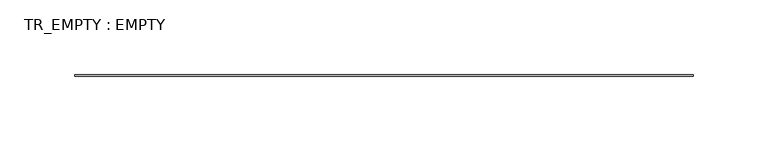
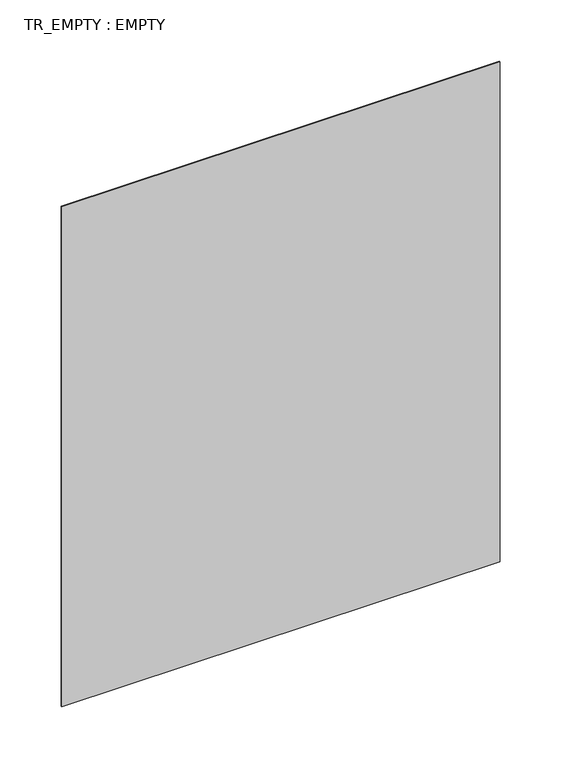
"""IFC4 building model written with IfcOpenShell, lengths in millimetres: plate geometry, TR_EMPTY : EMPTY."""

from ifc_helpers import new_model, si_unit, frame, origin, place, context, project, spatial, polyline, outline, extrude, source, transform, mapped, element, save


def tr_empty_empty_eedd1f6f(model_context):
    return source(origin(), model_context, "Body", "SweptSolid", [
        extrude(outline(polyline([(207.5000002, -31.0), (-207.5000002, -31.0), (-207.5000002, -30.0), (207.5000002, -30.0), (207.5000002, -31.0)])), frame((0.0, 0.0, 50.0), z_axis=(0.0, 0.0, 1.0), x_axis=(1.0, 0.0, 0.0)), (0.0, 0.0, 1.0), 500.0),
    ])


if __name__ == "__main__":
    model = new_model("IFC4")
    model_context = context("Model", 3, world=origin())
    ifc_project = project(units=[si_unit("LENGTHUNIT", "METRE", prefix="MILLI")], contexts=[model_context])
    site = spatial("IfcSite", under=ifc_project)
    building = spatial("IfcBuilding", under=site)
    placement = place(None, origin())
    tr_empty_empty_shape = tr_empty_empty_eedd1f6f(model_context)
    element("IfcPlate", 1, ObjectType="TR_EMPTY : EMPTY", at=placement, inside=building, context=model_context, shape_type="MappedRepresentation", body=[
        mapped(tr_empty_empty_shape, transform((0.0, 0.0, 0.0), x_axis=(1.0, 0.0, 0.0), y_axis=(0.0, 1.0, 0.0), z_axis=(0.0, 0.0, 1.0))),
    ])
    save(model, "model.ifc")
